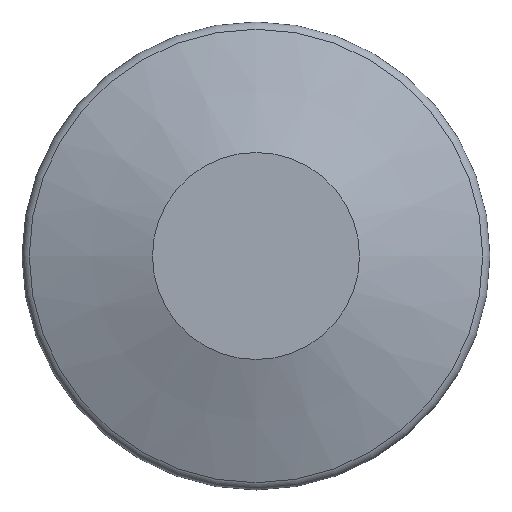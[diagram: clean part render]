
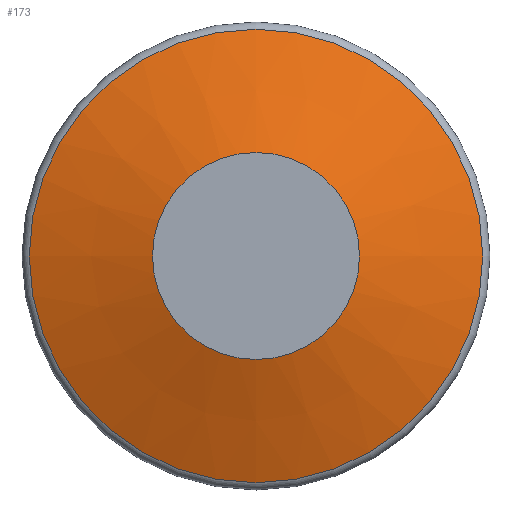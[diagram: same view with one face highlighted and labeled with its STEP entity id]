
A CAD part, left-side view. The second image highlights one B-rep face of the part: STEP entity #173.
In plain terms, the highlighted conical face has half-angle 70 degrees and reference radius 17 mm.
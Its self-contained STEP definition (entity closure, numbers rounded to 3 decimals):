
#29=FACE_OUTER_BOUND('',#41,.T.);
#41=EDGE_LOOP('',(#134,#135,#136,#137,#138));
#49=LINE('',#332,#53);
#53=VECTOR('',#277,17.);
#66=CIRCLE('',#220,16.474);
#67=CIRCLE('',#221,16.474);
#68=CIRCLE('',#222,7.521);
#82=VERTEX_POINT('',#327);
#83=VERTEX_POINT('',#328);
#84=VERTEX_POINT('',#331);
#101=EDGE_CURVE('',#82,#83,#66,.T.);
#102=EDGE_CURVE('',#83,#82,#67,.T.);
#103=EDGE_CURVE('',#82,#84,#49,.T.);
#104=EDGE_CURVE('',#84,#84,#68,.T.);
#134=ORIENTED_EDGE('',*,*,#101,.T.);
#135=ORIENTED_EDGE('',*,*,#102,.T.);
#136=ORIENTED_EDGE('',*,*,#103,.T.);
#137=ORIENTED_EDGE('',*,*,#104,.T.);
#138=ORIENTED_EDGE('',*,*,#103,.F.);
#154=CONICAL_SURFACE('',#219,17.,1.222);
#173=ADVANCED_FACE('',(#29),#154,.T.);
#219=AXIS2_PLACEMENT_3D('',#326,#271,#272);
#220=AXIS2_PLACEMENT_3D('',#329,#273,#274);
#221=AXIS2_PLACEMENT_3D('',#330,#275,#276);
#222=AXIS2_PLACEMENT_3D('',#333,#278,#279);
#271=DIRECTION('center_axis',(1.,0.,0.));
#272=DIRECTION('ref_axis',(0.,0.,1.));
#273=DIRECTION('center_axis',(-1.,0.,0.));
#274=DIRECTION('ref_axis',(0.,0.,-1.));
#275=DIRECTION('center_axis',(-1.,0.,0.));
#276=DIRECTION('ref_axis',(0.,0.,-1.));
#277=DIRECTION('',(-0.342,0.,0.94));
#278=DIRECTION('center_axis',(1.,0.,0.));
#279=DIRECTION('ref_axis',(0.,0.,1.));
#326=CARTESIAN_POINT('Origin',(-6.338,3.139,0.));
#327=CARTESIAN_POINT('',(-6.53,3.139,-16.474));
#328=CARTESIAN_POINT('',(-6.53,3.139,16.474));
#329=CARTESIAN_POINT('Origin',(-6.53,3.139,0.));
#330=CARTESIAN_POINT('Origin',(-6.53,3.139,0.));
#331=CARTESIAN_POINT('',(-9.788,3.139,-7.521));
#332=CARTESIAN_POINT('',(-6.338,3.139,-17.));
#333=CARTESIAN_POINT('Origin',(-9.788,3.139,0.));
